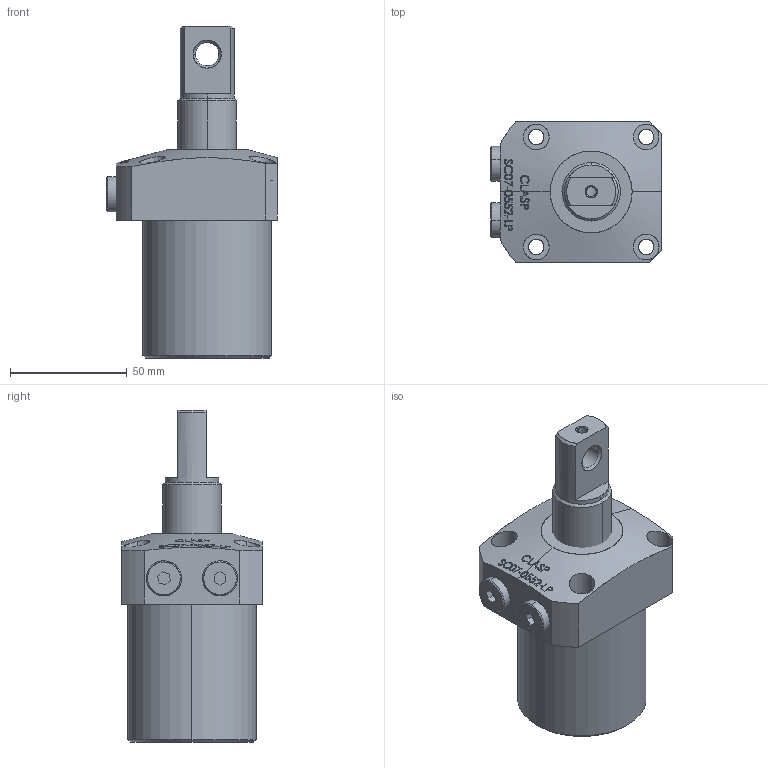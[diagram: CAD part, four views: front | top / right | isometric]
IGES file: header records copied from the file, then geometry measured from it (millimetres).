
Start section: SolidWorks IGES file using analytic representation for surfaces
Global section: file name: D:\karuppas\Clasp\3D model\SWING CYLINDER\Top Mounting swing cylinder-P type\SC07-0552-LP\SC07-0552-LP.IGS; native system: SolidWorks 2017; preprocessor: SolidWorks 2017; author: pc; date: 220708.222514; units: millimetre
Bounding box: 73 x 60 x 142 mm (x, y, z)
Surface area: 37052.2 mm2 (no closed solid volume)
Topology: 0 solids, 0 shells, 322 faces, 5696 edges, 5696 vertices
Faces by surface type: bspline 242, revolution 80
